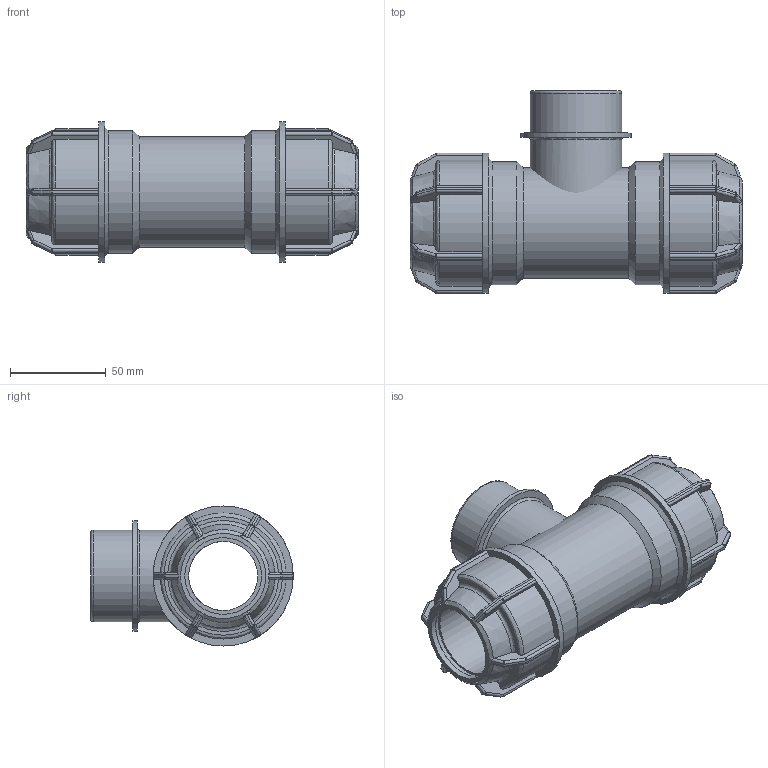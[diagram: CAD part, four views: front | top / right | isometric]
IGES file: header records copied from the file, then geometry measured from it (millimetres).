
Global section: file name: 148400040015.ipt; native system: Autodesk Inventor 2015; preprocessor: unknown; author: KIM; date: 20180409.131235; units: millimetre
Bounding box: 173 x 105.5 x 73 mm (x, y, z)
Volume: 339290.1 mm3; surface area: 82777.9 mm2
Topology: 2 solids, 2 shells, 414 faces, 996 edges, 584 vertices
Faces by surface type: plane 196, cylinder 116, sphere 48, revolution 38, cone 16
Full cylindrical faces by diameter (mm): 47.803 x2, 57.364 x1, 57.6 x1, 64 x2, 73 x2
